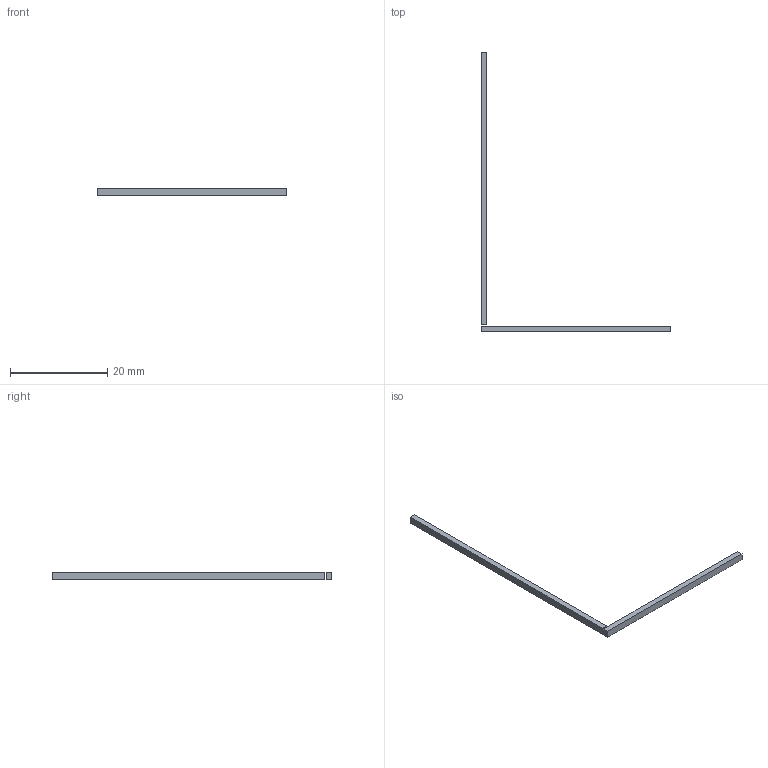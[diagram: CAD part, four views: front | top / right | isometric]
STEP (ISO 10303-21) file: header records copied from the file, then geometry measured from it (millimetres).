
FILE_DESCRIPTION(('Open CASCADE Model'),'2;1');
FILE_NAME('Battery locating rails','2026-11-12T07:10:07',('Author'),( 'Open CASCADE'),'Open CASCADE STEP processor 7.8','build123d', 'Unknown');
FILE_SCHEMA(('AUTOMOTIVE_DESIGN { 1 0 10303 214 1 1 1 1 }'));
Length unit declared in the file: millimetre
Products named in the file (1): Battery locating rails
Bounding box: 39 x 57.5 x 1.5 mm (x, y, z)
Volume: 171 mm3; surface area: 520.2 mm2
Topology: 2 solids, 2 shells, 12 faces, 24 edges, 16 vertices
Faces by surface type: plane 12
Entity records: 644 total; most frequent: CARTESIAN_POINT 101, DIRECTION 98, LINE 72, VECTOR 72, ORIENTED_EDGE 48, PCURVE 48, DEFINITIONAL_REPRESENTATION 48, EDGE_CURVE 24
